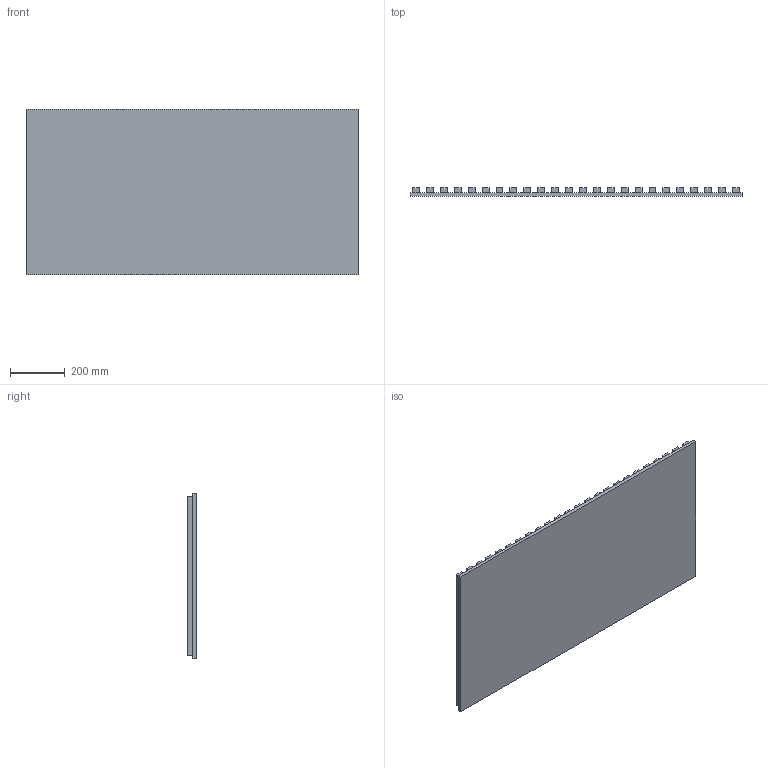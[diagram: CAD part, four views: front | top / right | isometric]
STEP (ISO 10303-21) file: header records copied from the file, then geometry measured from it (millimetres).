
FILE_DESCRIPTION(/* description */ (''),/* implementation_level */ '2;1');
FILE_NAME(/* name */ 'Y:\Design and Engineering\MaterialLogiq\CAD ASSETS\MASTER\SLATTA\PARAMETRIC\Slatta_Tile_2x4_0.75_Lat.stp',/* time_stamp */ '2024-03-19T10:18:18-05:00',/* author */ ('Grant Baker'),/* organization */ (''),/* preprocessor_version */ 'ST-DEVELOPER v19',/* originating_system */ 'Autodesk Inventor 2023',/* authorisation */ '');
FILE_SCHEMA (('AUTOMOTIVE_DESIGN { 1 0 10303 214 3 1 1 }'));
Length unit declared in the file: inch
Products named in the file (3): Slatta_Tile_Parametric; Slatta_Tile - Backer; Slatta_Tile - Slat
Assembly tree (25 placements, depth 2):
  Slatta_Tile_Parametric
    Slatta_Tile - Backer
    Slatta_Tile - Slat  x24
Bounding box: 1212.85 x 31.75 x 603.25 mm (x, y, z)
Volume: 16076221.9 mm3; surface area: 2779107.3 mm2
Topology: 25 solids, 25 shells, 150 faces, 300 edges, 200 vertices
Faces by surface type: plane 150
Entity records: 601 total; most frequent: DIRECTION 104, CARTESIAN_POINT 80, ORIENTED_EDGE 48, AXIS2_PLACEMENT_3D 40, PRODUCT_DEFINITION_SHAPE 28, ITEM_DEFINED_TRANSFORMATION 25, CONTEXT_DEPENDENT_SHAPE_REPRESENTATION 25, NEXT_ASSEMBLY_USAGE_OCCURRENCE 25
